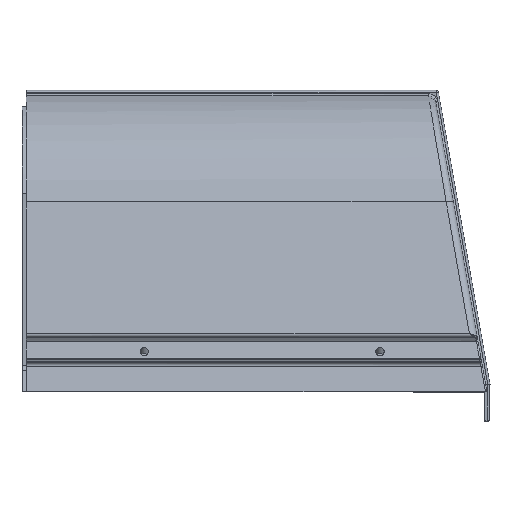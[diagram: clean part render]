
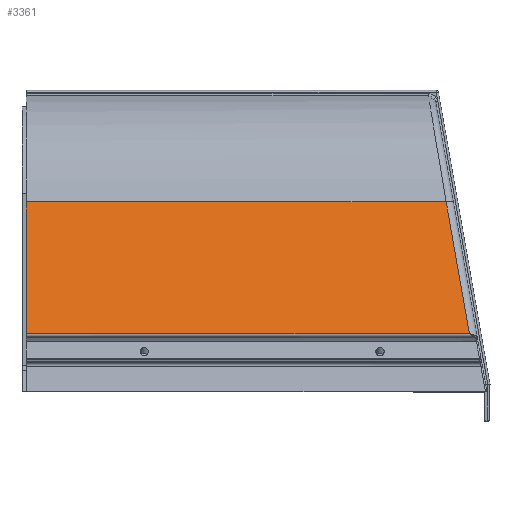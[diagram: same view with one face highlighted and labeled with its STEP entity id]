
A CAD part, top view. The second image highlights one B-rep face of the part: STEP entity #3361.
In plain terms, the highlighted planar face has unit normal (0, 0.259, 0.966).
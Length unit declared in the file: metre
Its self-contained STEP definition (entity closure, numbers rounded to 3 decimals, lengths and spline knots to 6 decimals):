
#254=LINE('',#4923,#501);
#318=LINE('',#5152,#565);
#381=LINE('',#5636,#628);
#397=LINE('',#5669,#644);
#501=VECTOR('',#3931,1.);
#565=VECTOR('',#4065,1.);
#628=VECTOR('',#4404,1.);
#644=VECTOR('',#4450,1.);
#1169=ORIENTED_EDGE('',*,*,#1947,.T.);
#1170=ORIENTED_EDGE('',*,*,#1964,.T.);
#1171=ORIENTED_EDGE('',*,*,#1795,.T.);
#1172=ORIENTED_EDGE('',*,*,#1701,.T.);
#1701=EDGE_CURVE('',#2167,#2166,#254,.T.);
#1795=EDGE_CURVE('',#2247,#2167,#318,.T.);
#1947=EDGE_CURVE('',#2166,#2336,#381,.F.);
#1964=EDGE_CURVE('',#2336,#2247,#397,.T.);
#2166=VERTEX_POINT('',#4922);
#2167=VERTEX_POINT('',#4924);
#2247=VERTEX_POINT('',#5145);
#2336=VERTEX_POINT('',#5422);
#2712=EDGE_LOOP('',(#1169,#1170,#1171,#1172));
#3020=FACE_BOUND('',#2712,.T.);
#3228=PLANE('',#3700);
#3361=ADVANCED_FACE('',(#3020),#3228,.F.);
#3700=AXIS2_PLACEMENT_3D('',#5668,#4448,#4449);
#3931=DIRECTION('',(0.,-0.966,0.259));
#4065=DIRECTION('',(-1.,0.,0.));
#4404=DIRECTION('',(-1.,0.,0.));
#4448=DIRECTION('',(0.,-0.259,-0.966));
#4449=DIRECTION('',(1.,0.,0.));
#4450=DIRECTION('',(-0.168,0.952,-0.255));
#4922=CARTESIAN_POINT('',(0.,0.039603,0.889388));
#4923=CARTESIAN_POINT('',(0.,0.,0.9));
#4924=CARTESIAN_POINT('',(0.,0.128953,0.865447));
#5145=CARTESIAN_POINT('',(0.284913,0.128953,0.865447));
#5152=CARTESIAN_POINT('',(0.,0.128953,0.865447));
#5422=CARTESIAN_POINT('',(0.300668,0.039603,0.889388));
#5636=CARTESIAN_POINT('',(0.305858,0.039603,0.889388));
#5668=CARTESIAN_POINT('',(0.0025,0.,0.9));
#5669=CARTESIAN_POINT('',(0.28505,0.128177,0.865655));
